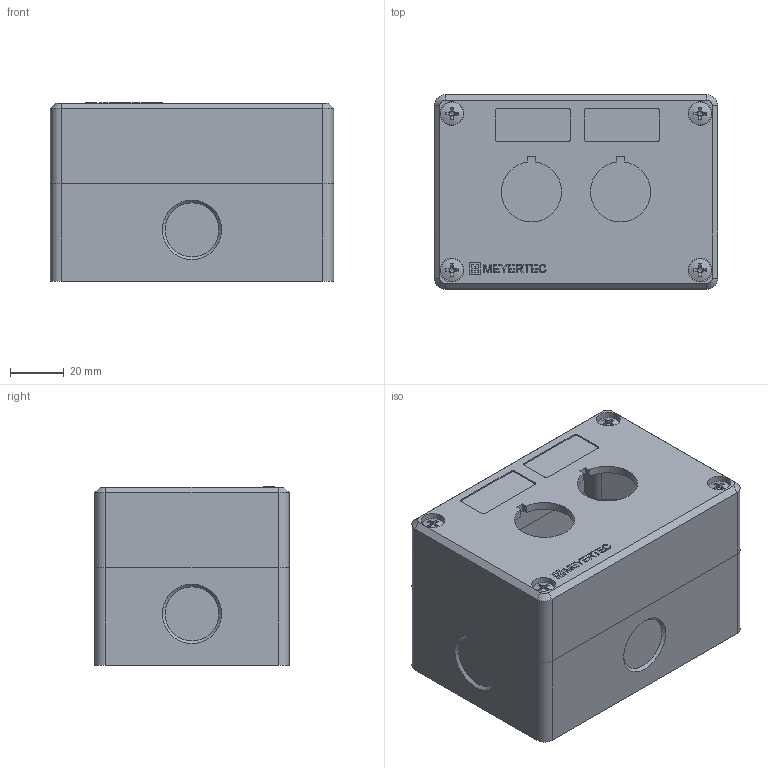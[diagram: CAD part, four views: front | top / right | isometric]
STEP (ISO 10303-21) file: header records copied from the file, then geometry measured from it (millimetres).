
FILE_DESCRIPTION (( 'STEP AP214' ), '1' );
FILE_NAME ('3D-斁麧錪 MTB2-PE2.STEP', '2020-06-23T12:46:29', ( '' ), ( '' ), 'SwSTEP 2.0', 'SolidWorks 2015', '' );
FILE_SCHEMA (( 'AUTOMOTIVE_DESIGN' ));
Length unit declared in the file: millimetre
Products named in the file (4): ISO 7047 - M4 x 40 - Z --- 40N_ISO 7047 - M4 x 40 - Z --- 40N; MTB2-PE2_瞂贂; MTB2-PE2_íèç; 3D-斁麧錪 MTB2-PE2
Assembly tree (6 placements, depth 2):
  3D-斁麧錪 MTB2-PE2
    MTB2-PE2_íèç
    MTB2-PE2_瞂贂
    ISO 7047 - M4 x 40 - Z --- 40N_ISO 7047 - M4 x 40 - Z --- 40N  x4
Bounding box: 105 x 72 x 66.02 mm (x, y, z)
Volume: 109291.1 mm3; surface area: 96667.1 mm2
Topology: 6 solids, 6 shells, 501 faces, 1313 edges, 858 vertices
Faces by surface type: plane 328, cylinder 109, cone 36, bspline 20, sphere 4, torus 4
Full cylindrical faces by diameter (mm): 3.8 x8, 4 x4, 7.8 x4, 8.4 x4, 8.8 x4
Entity records: 15502 total; most frequent: CARTESIAN_POINT 3506, ORIENTED_EDGE 2160, DIRECTION 2097, EDGE_CURVE 1080, LINE 785, VECTOR 785, VERTEX_POINT 729, AXIS2_PLACEMENT_3D 656
